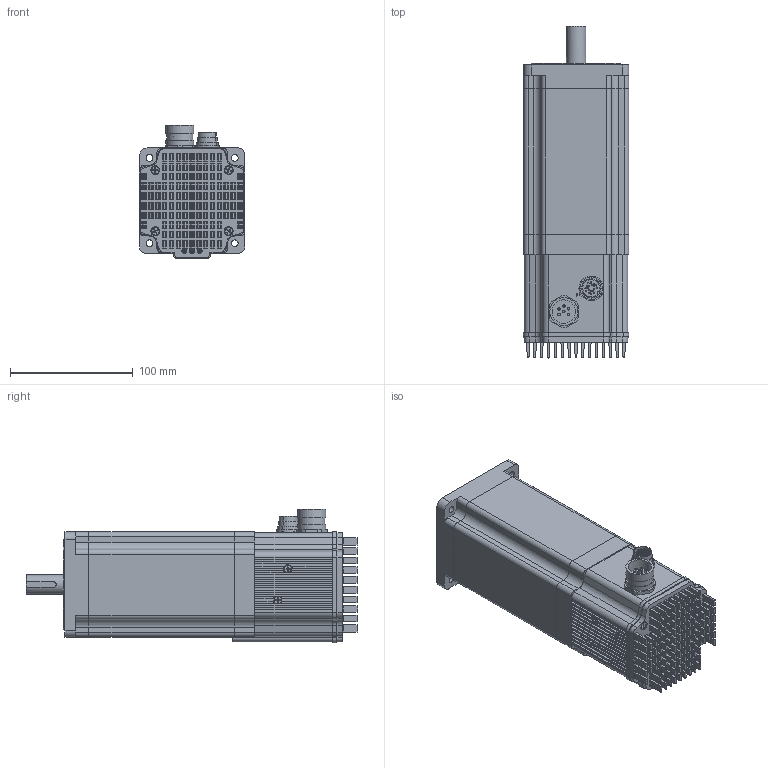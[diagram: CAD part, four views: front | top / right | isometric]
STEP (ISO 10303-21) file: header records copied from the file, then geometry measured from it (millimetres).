
FILE_DESCRIPTION(/* description */ ('Alibre Inc.'),/* implementation_level */ '2;1');
FILE_NAME(/* name */ 'export0',/* time_stamp */ '2017-08-07T13:26:49-07:00',/* author */ (''),/* organization */ (''),/* preprocessor_version */ 'ST-DEVELOPER v14',/* originating_system */ 'Alibre',/* authorisation */ '');
FILE_SCHEMA (('AUTOMOTIVE_DESIGN'));
Length unit declared in the file: centimetre
Bounding box: 86.11 x 270.78 x 108.94 mm (x, y, z)
Volume: 1145025.4 mm3; surface area: 202192.4 mm2
Topology: 37 solids, 38 shells, 3057 faces, 8135 edges, 5359 vertices
Faces by surface type: plane 1950, cylinder 980, cone 45, torus 43, sphere 26, bspline 13
Full cylindrical faces by diameter (mm): 0.483 x3, 0.61 x2, 1 x19, 1.981 x6, 2.156 x5, 2.54 x3, 2.616 x8, 2.718 x3, 3.175 x11, 3.81 x3, 4.089 x8, 5.537 x4, 9.525 x2, 9.982 x2, 15.875 x1, 17.094 x1, 19.152 x1, 20.218 x2, 20.32 x1, 21.412 x1, 22.86 x2, 25.298 x1, 34.798 x1, 44.323 x1, 73.025 x1
Entity records: 82408 total; most frequent: ORIENTED_EDGE 15204, CARTESIAN_POINT 14499, DIRECTION 11658, EDGE_CURVE 7602, VERTEX_POINT 5094, VECTOR 4509, LINE 4509, AXIS2_PLACEMENT_3D 4272
